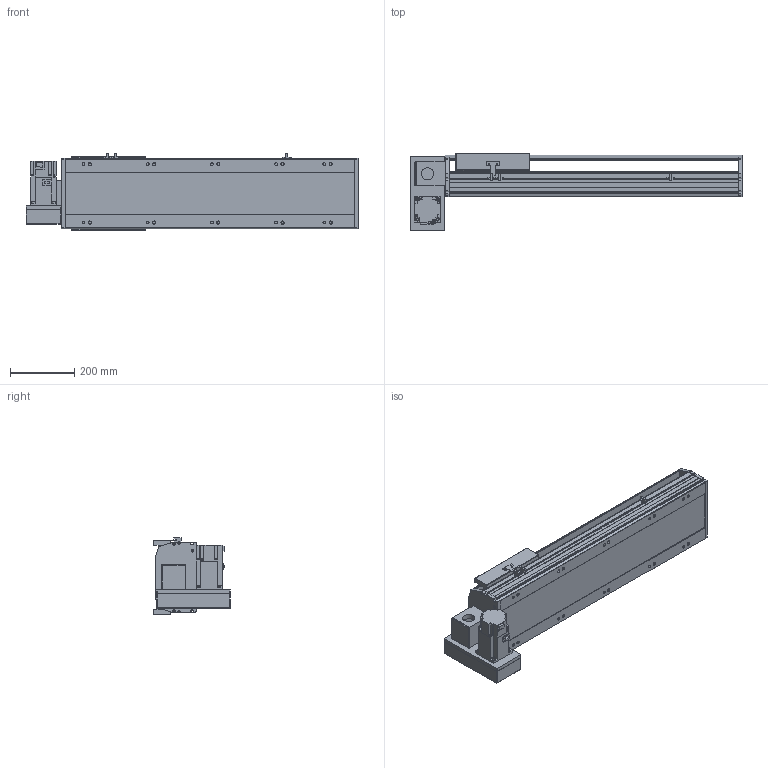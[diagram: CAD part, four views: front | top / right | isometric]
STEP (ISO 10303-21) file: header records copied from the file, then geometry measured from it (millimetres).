
FILE_DESCRIPTION(/* description */ ('STEP AP214'),/* implementation_level */ '2;1');
FILE_NAME(/* name */ 'PBS220-P40-S550-LD-T75-C1-N(0)',/* time_stamp */ '2022-06-27T09:43:04+02:00',/* author */ ('License CC BY-ND 4.0'),/* organization */ ('CADENAS'),/* preprocessor_version */ 'ST-DEVELOPER v18.102',/* originating_system */ 'PARTsolutions',/* authorisation */ ' ');
FILE_SCHEMA (('AUTOMOTIVE_DESIGN {1 0 10303 214 3 1 1}'));
Length unit declared in the file: millimetre
Products named in the file (7): PBS220-P40-S550-LD-T75-C1-N(0); PBS220_sensor; PBS220_plant; PBS220_sliser; T75-p1; PBS220T-LD_motors; PBS220-S550()_body
Assembly tree (8 placements, depth 2):
  PBS220-P40-S550-LD-T75-C1-N(0)
    PBS220_sensor  x3
    PBS220_plant
    PBS220_sliser
    T75-p1
    PBS220T-LD_motors
    PBS220-S550()_body
Bounding box: 1034 x 239 x 238.5 mm (x, y, z)
Volume: 15398896 mm3; surface area: 1583985.5 mm2
Topology: 8 solids, 8 shells, 878 faces, 2312 edges, 1504 vertices
Faces by surface type: plane 586, cylinder 258, cone 34
Full cylindrical faces by diameter (mm): 2.013 x4, 4.5 x14, 4.917 x4, 6 x7, 6.647 x8, 8 x10, 8.376 x10, 8.5 x10, 10 x6, 14 x10, 38 x2, 40 x1, 70 x1
Entity records: 24692 total; most frequent: CARTESIAN_POINT 4294, DIRECTION 4293, ORIENTED_EDGE 3998, EDGE_CURVE 1999, AXIS2_PLACEMENT_3D 1477, VERTEX_POINT 1368, LINE 1339, VECTOR 1339
